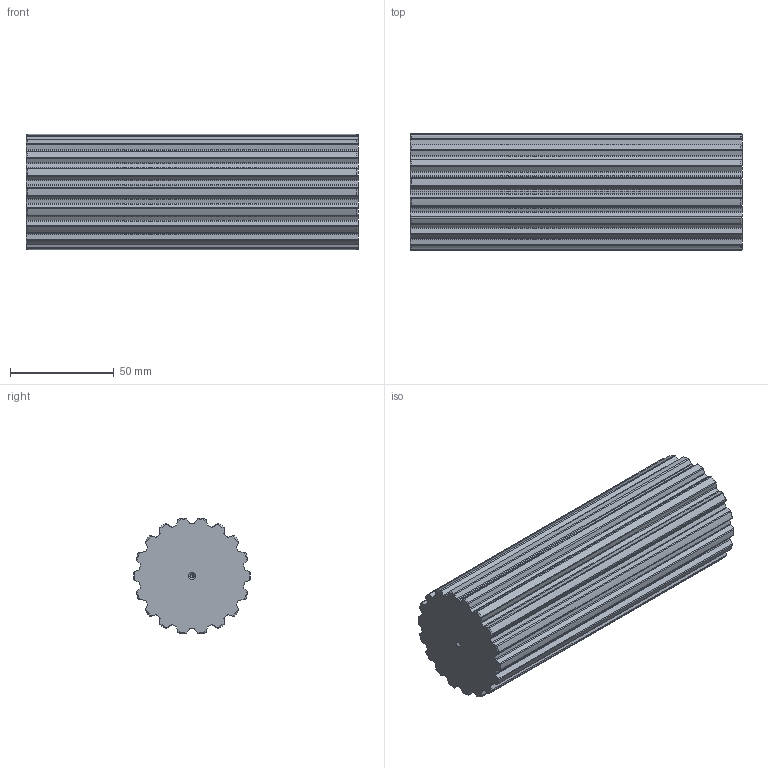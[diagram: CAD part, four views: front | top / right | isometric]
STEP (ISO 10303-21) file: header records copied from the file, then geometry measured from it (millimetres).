
FILE_DESCRIPTION(('STEP AP203'),'1');
FILE_NAME('bart_18.stp','2021-01-14T11:54:06',('TraceParts'),('TraceParts S.A.'),'Spatial InterOp 3D',' ',' ');
FILE_SCHEMA(('CONFIG_CONTROL_DESIGN'));
Length unit declared in the file: millimetre
Products named in the file (1): 1
Bounding box: 160 x 56.29 x 55.9 mm (x, y, z)
Volume: 364612.7 mm3; surface area: 39861.9 mm2
Topology: 1 solids, 1 shells, 200 faces, 586 edges, 386 vertices
Faces by surface type: cylinder 114, cone 48, plane 38
Entity records: 6994 total; most frequent: CARTESIAN_POINT 1817, ORIENTED_EDGE 1164, DIRECTION 1044, EDGE_CURVE 582, AXIS2_PLACEMENT_3D 405, VERTEX_POINT 386, LINE 234, VECTOR 234
